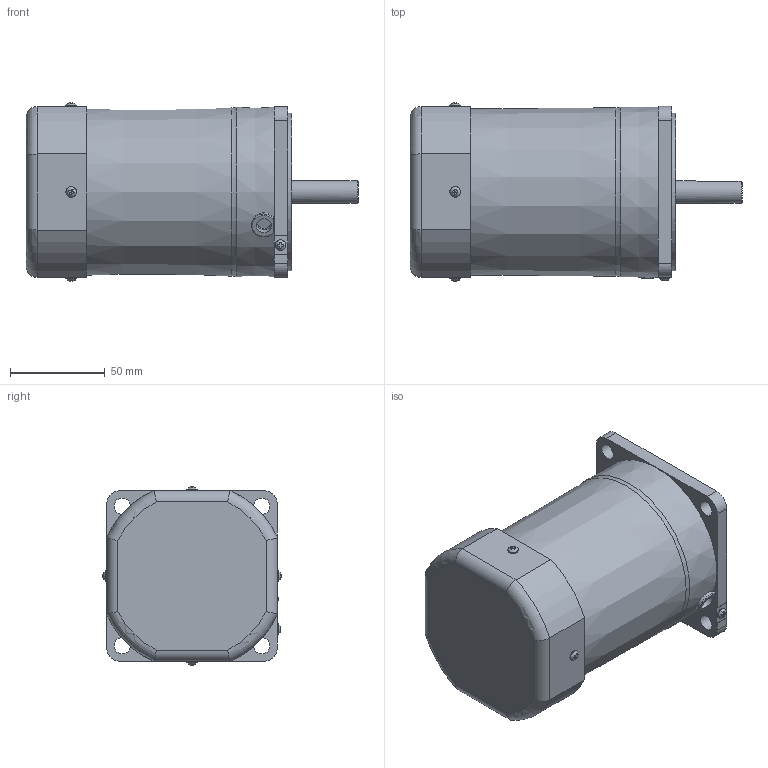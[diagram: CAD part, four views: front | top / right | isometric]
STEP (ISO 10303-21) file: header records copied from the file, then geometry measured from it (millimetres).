
FILE_DESCRIPTION(/* description */ (''),/* implementation_level */ '2;1');
FILE_NAME(/* name */ 'E:\도면작업\2016\0704) 미주향 SG 도면\3D MOTOR\SG9I90K_.stp',/* time_stamp */ '2016-07-22T13:53:30+09:00',/* author */ ('jy-jung'),/* organization */ (''),/* preprocessor_version */ 'ST-DEVELOPER v15.6',/* originating_system */ 'Autodesk Inventor 2015',/* authorisation */ '');
FILE_SCHEMA (('AUTOMOTIVE_DESIGN { 1 0 10303 214 3 1 1 }'));
Length unit declared in the file: millimetre
Products named in the file (1): 부품2
Bounding box: 174.8 x 93.89 x 93.89 mm (x, y, z)
Volume: 884747.2 mm3; surface area: 62153 mm2
Topology: 1 solids, 6 shells, 196 faces, 505 edges, 334 vertices
Faces by surface type: plane 123, cylinder 47, torus 14, cone 7, bspline 5
Full cylindrical faces by diameter (mm): 3 x4, 3.5 x4, 5.6 x5, 8 x1, 8.5 x4, 10 x1, 12 x1, 40 x1, 83 x1
Entity records: 6417 total; most frequent: CARTESIAN_POINT 1654, ORIENTED_EDGE 914, DIRECTION 877, EDGE_CURVE 457, VERTEX_POINT 324, AXIS2_PLACEMENT_3D 315, EDGE_LOOP 265, LINE 247
